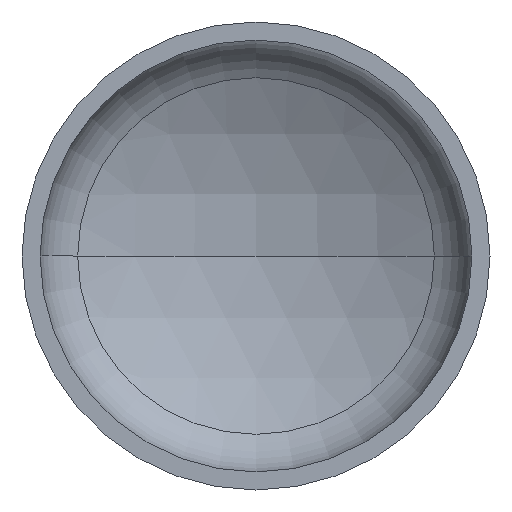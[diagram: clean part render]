
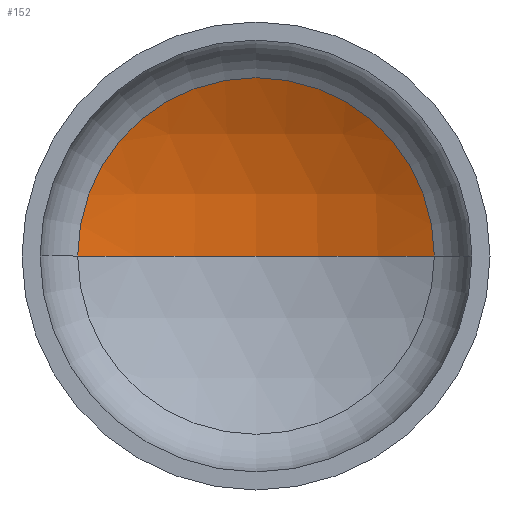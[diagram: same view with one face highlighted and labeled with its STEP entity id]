
A CAD part, front view. The second image highlights one B-rep face of the part: STEP entity #152.
In plain terms, the highlighted spherical face has radius 2400 mm.
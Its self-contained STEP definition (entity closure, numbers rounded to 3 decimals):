
#9 = EDGE_LOOP ( 'NONE', ( #124, #127, #109 ) ) ;
#14 = DIRECTION ( 'NONE',  ( 0., 0., -1. ) ) ;
#22 = VERTEX_POINT ( 'NONE', #296 ) ;
#45 = CARTESIAN_POINT ( 'NONE',  ( 0., -1630.821, 0. ) ) ;
#47 = AXIS2_PLACEMENT_3D ( 'NONE', #197, #199, #394 ) ;
#50 = AXIS2_PLACEMENT_3D ( 'NONE', #45, #14, #80 ) ;
#58 = AXIS2_PLACEMENT_3D ( 'NONE', #284, #282, #280 ) ;
#64 = VERTEX_POINT ( 'NONE', #246 ) ;
#66 = AXIS2_PLACEMENT_3D ( 'NONE', #319, #312, #231 ) ;
#80 = DIRECTION ( 'NONE',  ( -1., 0., 0. ) ) ;
#109 = ORIENTED_EDGE ( 'NONE', *, *, #183, .T. ) ;
#112 = VERTEX_POINT ( 'NONE', #317 ) ;
#124 = ORIENTED_EDGE ( 'NONE', *, *, #201, .F. ) ;
#127 = ORIENTED_EDGE ( 'NONE', *, *, #193, .T. ) ;
#152 = ADVANCED_FACE ( 'NONE', ( #375 ), #303, .F. ) ;
#182 = CIRCLE ( 'NONE', #58, 1143.093 ) ;
#183 = EDGE_CURVE ( 'NONE', #22, #64, #182, .T. ) ;
#193 = EDGE_CURVE ( 'NONE', #112, #22, #409, .T. ) ;
#197 = CARTESIAN_POINT ( 'NONE',  ( 0., -1630.821, 0. ) ) ;
#199 = DIRECTION ( 'NONE',  ( 0., 0., 1. ) ) ;
#201 = EDGE_CURVE ( 'NONE', #112, #64, #293, .T. ) ;
#231 = DIRECTION ( 'NONE',  ( -1., 0., 0. ) ) ;
#246 = CARTESIAN_POINT ( 'NONE',  ( -1143.093, 479.473, 0. ) ) ;
#280 = DIRECTION ( 'NONE',  ( 1., 0., 0. ) ) ;
#282 = DIRECTION ( 'NONE',  ( 0., -1., 0. ) ) ;
#284 = CARTESIAN_POINT ( 'NONE',  ( 0., 479.473, 0. ) ) ;
#293 = CIRCLE ( 'NONE', #47, 2400. ) ;
#296 = CARTESIAN_POINT ( 'NONE',  ( 1143.093, 479.473, 0. ) ) ;
#303 = SPHERICAL_SURFACE ( 'NONE', #66, 2400. ) ;
#312 = DIRECTION ( 'NONE',  ( 0., 0., -1. ) ) ;
#317 = CARTESIAN_POINT ( 'NONE',  ( 0., 769.179, 0. ) ) ;
#319 = CARTESIAN_POINT ( 'NONE',  ( 0., -1630.821, 0. ) ) ;
#375 = FACE_OUTER_BOUND ( 'NONE', #9, .T. ) ;
#394 = DIRECTION ( 'NONE',  ( 1., 0., 0. ) ) ;
#409 = CIRCLE ( 'NONE', #50, 2400. ) ;
